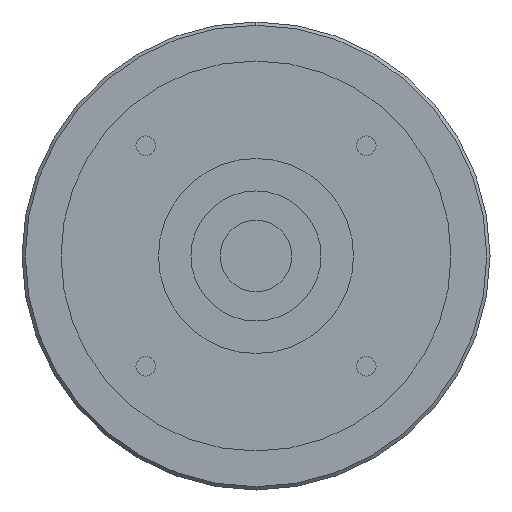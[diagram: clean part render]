
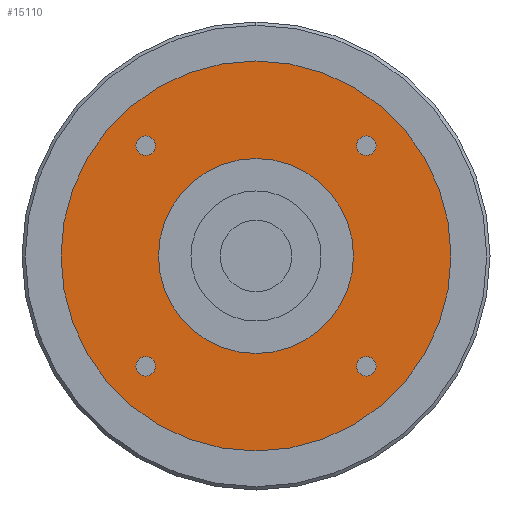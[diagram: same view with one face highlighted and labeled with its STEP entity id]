
A CAD part, left-side view. The second image highlights one B-rep face of the part: STEP entity #15110.
In plain terms, the highlighted planar face has unit normal (-1, 0, 0) as drawn and (0, 0, -1) by its records, which use the part's own axes.
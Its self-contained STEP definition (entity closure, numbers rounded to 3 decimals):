
#11930=CARTESIAN_POINT('',(15.471,16.971,-92.));
#11940=VERTEX_POINT('',#11930);
#12120=CARTESIAN_POINT('',(18.471,16.971,-92.));
#12130=VERTEX_POINT('',#12120);
#12160=CARTESIAN_POINT('',(16.971,16.971,-92.));
#12170=DIRECTION('',(0.,0.,-1.));
#12180=DIRECTION('',(0.,1.,0.));
#12190=AXIS2_PLACEMENT_3D('',#12160,#12170,#12180);
#12200=CIRCLE('',#12190,1.5);
#12210=CARTESIAN_POINT('',(16.971,18.471,-92.));
#12220=VERTEX_POINT('',#12210);
#12230=EDGE_CURVE('',#12220,#12130,#12200,.T.);
#12250=EDGE_CURVE('',#11940,#12220,#12200,.T.);
#12390=CARTESIAN_POINT('',(-16.971,15.471,-92.));
#12400=VERTEX_POINT('',#12390);
#12580=CARTESIAN_POINT('',(-16.971,18.471,-92.));
#12590=VERTEX_POINT('',#12580);
#12620=CARTESIAN_POINT('',(-16.971,16.971,-92.));
#12630=DIRECTION('',(0.,0.,-1.));
#12640=DIRECTION('',(-1.,0.,0.));
#12650=AXIS2_PLACEMENT_3D('',#12620,#12630,#12640);
#12660=CIRCLE('',#12650,1.5);
#12670=CARTESIAN_POINT('',(-18.471,16.971,-92.));
#12680=VERTEX_POINT('',#12670);
#12690=EDGE_CURVE('',#12680,#12590,#12660,.T.);
#12710=EDGE_CURVE('',#12400,#12680,#12660,.T.);
#14040=CARTESIAN_POINT('',(30.,0.,-92.));
#14050=VERTEX_POINT('',#14040);
#14080=CARTESIAN_POINT('',(0.,0.,
-92.));
#14090=DIRECTION('',(0.,0.,1.));
#14100=DIRECTION('',(0.,-1.,0.));
#14110=AXIS2_PLACEMENT_3D('',#14080,#14090,#14100);
#14120=CIRCLE('',#14110,30.);
#14130=CARTESIAN_POINT('',(0.,-30.,-92.));
#14140=VERTEX_POINT('',#14130);
#14150=EDGE_CURVE('',#14140,#14050,#14120,.T.);
#14170=CARTESIAN_POINT('',(-30.,0.,-92.));
#14180=VERTEX_POINT('',#14170);
#14190=EDGE_CURVE('',#14180,#14140,#14120,.T.);
#14310=CARTESIAN_POINT('',(0.,0.,
-92.));
#14320=DIRECTION('',(0.,0.,1.));
#14330=DIRECTION('',(-1.,0.,0.));
#14340=AXIS2_PLACEMENT_3D('',#14310,#14320,#14330);
#14350=PLANE('',#14340);
#14360=CARTESIAN_POINT('',(-16.971,-16.971,-92.));
#14370=DIRECTION('',(0.,0.,-1.));
#14380=DIRECTION('',(0.,-1.,0.));
#14390=AXIS2_PLACEMENT_3D('',#14360,#14370,#14380);
#14400=CIRCLE('',#14390,1.5);
#14410=CARTESIAN_POINT('',(-16.971,-18.471,-92.));
#14420=VERTEX_POINT('',#14410);
#14430=CARTESIAN_POINT('',(-18.471,-16.971,-92.));
#14440=VERTEX_POINT('',#14430);
#14450=EDGE_CURVE('',#14420,#14440,#14400,.T.);
#14460=ORIENTED_EDGE('',*,*,#14450,.F.);
#14470=CARTESIAN_POINT('',(-15.471,-16.971,-92.));
#14480=VERTEX_POINT('',#14470);
#14490=EDGE_CURVE('',#14440,#14480,#14400,.T.);
#14500=ORIENTED_EDGE('',*,*,#14490,.F.);
#14510=EDGE_CURVE('',#14480,#14420,#14400,.T.);
#14520=ORIENTED_EDGE('',*,*,#14510,.F.);
#14530=EDGE_LOOP('',(#14520,#14500,#14460));
#14540=FACE_BOUND('',#14530,.T.);
#14550=CARTESIAN_POINT('',(0.,0.,
-92.));
#14560=DIRECTION('',(0.,0.,1.));
#14570=DIRECTION('',(0.,-1.,0.));
#14580=AXIS2_PLACEMENT_3D('',#14550,#14560,#14570);
#14590=CIRCLE('',#14580,15.);
#14600=CARTESIAN_POINT('',(15.,0.,-92.));
#14610=VERTEX_POINT('',#14600);
#14620=CARTESIAN_POINT('',(-15.,0.,-92.));
#14630=VERTEX_POINT('',#14620);
#14640=EDGE_CURVE('',#14610,#14630,#14590,.T.);
#14650=ORIENTED_EDGE('',*,*,#14640,.T.);
#14660=CARTESIAN_POINT('',(0.,-15.,-92.));
#14670=VERTEX_POINT('',#14660);
#14680=EDGE_CURVE('',#14670,#14610,#14590,.T.);
#14690=ORIENTED_EDGE('',*,*,#14680,.T.);
#14700=EDGE_CURVE('',#14630,#14670,#14590,.T.);
#14710=ORIENTED_EDGE('',*,*,#14700,.T.);
#14720=EDGE_LOOP('',(#14710,#14690,#14650));
#14730=FACE_BOUND('',#14720,.T.);
#14740=CARTESIAN_POINT('',(16.971,-16.971,-92.));
#14750=DIRECTION('',(0.,0.,-1.));
#14760=DIRECTION('',(1.,0.,0.));
#14770=AXIS2_PLACEMENT_3D('',#14740,#14750,#14760);
#14780=CIRCLE('',#14770,1.5);
#14790=CARTESIAN_POINT('',(18.471,-16.971,-92.));
#14800=VERTEX_POINT('',#14790);
#14810=CARTESIAN_POINT('',(16.971,-18.471,-92.));
#14820=VERTEX_POINT('',#14810);
#14830=EDGE_CURVE('',#14800,#14820,#14780,.T.);
#14840=ORIENTED_EDGE('',*,*,#14830,.F.);
#14850=CARTESIAN_POINT('',(16.971,-15.471,-92.));
#14860=VERTEX_POINT('',#14850);
#14870=EDGE_CURVE('',#14820,#14860,#14780,.T.);
#14880=ORIENTED_EDGE('',*,*,#14870,.F.);
#14890=EDGE_CURVE('',#14860,#14800,#14780,.T.);
#14900=ORIENTED_EDGE('',*,*,#14890,.F.);
#14910=EDGE_LOOP('',(#14900,#14880,#14840));
#14920=FACE_BOUND('',#14910,.T.);
#14930=ORIENTED_EDGE('',*,*,#12230,.F.);
#14940=EDGE_CURVE('',#12130,#11940,#12200,.T.);
#14950=ORIENTED_EDGE('',*,*,#14940,.F.);
#14960=ORIENTED_EDGE('',*,*,#12250,.F.);
#14970=EDGE_LOOP('',(#14960,#14950,#14930));
#14980=FACE_BOUND('',#14970,.T.);
#14990=ORIENTED_EDGE('',*,*,#12690,.F.);
#15000=EDGE_CURVE('',#12590,#12400,#12660,.T.);
#15010=ORIENTED_EDGE('',*,*,#15000,.F.);
#15020=ORIENTED_EDGE('',*,*,#12710,.F.);
#15030=EDGE_LOOP('',(#15020,#15010,#14990));
#15040=FACE_BOUND('',#15030,.T.);
#15050=ORIENTED_EDGE('',*,*,#14150,.F.);
#15060=EDGE_CURVE('',#14050,#14180,#14120,.T.);
#15070=ORIENTED_EDGE('',*,*,#15060,.F.);
#15080=ORIENTED_EDGE('',*,*,#14190,.F.);
#15090=EDGE_LOOP('',(#15080,#15070,#15050));
#15100=FACE_OUTER_BOUND('',#15090,.T.);
#15110=ADVANCED_FACE('',(#14540,#14730,#14920,#14980,#15040,#15100),
#14350,.F.);
